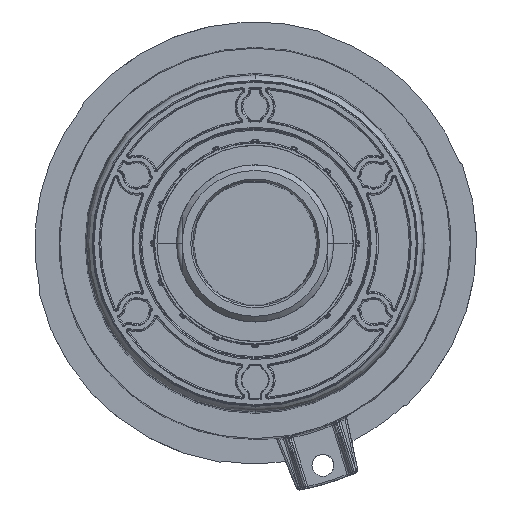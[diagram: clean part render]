
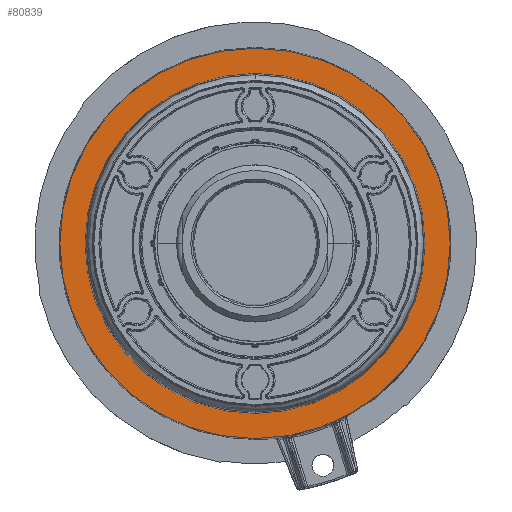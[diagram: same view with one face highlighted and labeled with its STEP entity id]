
A CAD part, front view. The second image highlights one B-rep face of the part: STEP entity #80839.
In plain terms, the highlighted planar face has unit normal (0, -1, 0).
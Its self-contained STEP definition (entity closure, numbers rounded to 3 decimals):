
#21934=CARTESIAN_POINT('',(0.,-62.,0.));
#21935=DIRECTION('',(0.,-1.,0.));
#21936=DIRECTION('',(0.,0.,-1.));
#21937=AXIS2_PLACEMENT_3D('',#21934,#21935,#21936);
#21942=CARTESIAN_POINT('',(0.,-62.,0.));
#21943=DIRECTION('',(0.,-1.,0.));
#21944=DIRECTION('',(0.,0.,1.));
#21945=AXIS2_PLACEMENT_3D('',#21942,#21943,#21944);
#21950=CARTESIAN_POINT('',(0.,-62.,0.));
#21951=DIRECTION('',(0.,-1.,0.));
#21952=DIRECTION('',(0.,0.,1.));
#21953=AXIS2_PLACEMENT_3D('',#21950,#21951,#21952);
#21958=CARTESIAN_POINT('',(0.,-62.,0.));
#21959=DIRECTION('',(0.,1.,0.));
#21960=DIRECTION('',(0.,0.,1.));
#21961=AXIS2_PLACEMENT_3D('',#21958,#21959,#21960);
#43558=CARTESIAN_POINT('',(0.,-62.,52.133));
#43559=CARTESIAN_POINT('',(0.,-62.,-52.133));
#43560=VERTEX_POINT('',#43558);
#43561=VERTEX_POINT('',#43559);
#45520=CARTESIAN_POINT('',(0.,-62.,-45.399));
#45521=VERTEX_POINT('',#45520);
#45522=CARTESIAN_POINT('',(0.,-62.,45.399));
#45523=VERTEX_POINT('',#45522);
#80823=CARTESIAN_POINT('',(0.,-62.,0.));
#80824=DIRECTION('',(0.,-1.,0.));
#80825=DIRECTION('',(0.,0.,1.));
#80826=AXIS2_PLACEMENT_3D('',#80823,#80824,#80825);
#80827=PLANE('',#80826);
#80829=ORIENTED_EDGE('',*,*,#80828,.F.);
#80831=ORIENTED_EDGE('',*,*,#80830,.T.);
#80832=EDGE_LOOP('',(#80829,#80831));
#80833=FACE_OUTER_BOUND('',#80832,.F.);
#80834=ORIENTED_EDGE('',*,*,#80813,.T.);
#80836=ORIENTED_EDGE('',*,*,#80835,.T.);
#80837=EDGE_LOOP('',(#80834,#80836));
#80838=FACE_BOUND('',#80837,.F.);
#21938=CIRCLE('',#21937,45.399);
#21946=CIRCLE('',#21945,45.399);
#21954=CIRCLE('',#21953,52.133);
#21962=CIRCLE('',#21961,52.133);
#80813=EDGE_CURVE('',#45521,#45523,#21938,.T.);
#80828=EDGE_CURVE('',#43560,#43561,#21954,.T.);
#80830=EDGE_CURVE('',#43560,#43561,#21962,.T.);
#80835=EDGE_CURVE('',#45523,#45521,#21946,.T.);
#80839=ADVANCED_FACE('',(#80833,#80838),#80827,.T.);
